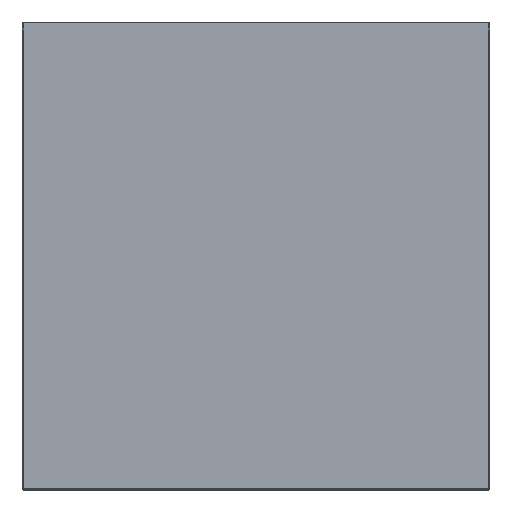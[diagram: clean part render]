
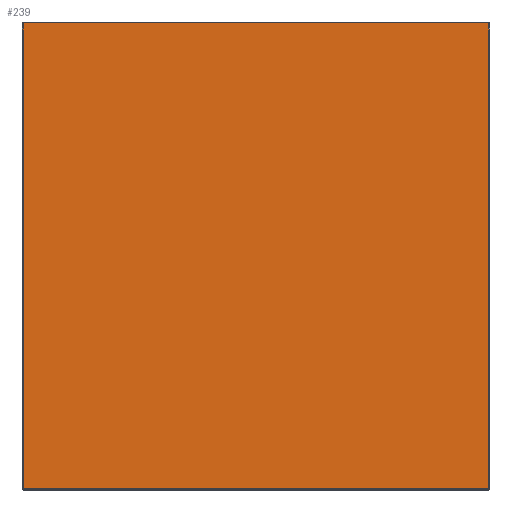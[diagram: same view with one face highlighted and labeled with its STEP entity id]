
A CAD part, top view. The second image highlights one B-rep face of the part: STEP entity #239.
In plain terms, the highlighted planar face has unit normal (0, 0, 1).
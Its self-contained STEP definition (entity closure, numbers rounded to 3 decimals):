
#40=B_SPLINE_CURVE_WITH_KNOTS('',1,(#3655,#3656),.UNSPECIFIED.,.F.,.F.,
(2,2),(1.5,708.5),.UNSPECIFIED.);
#41=B_SPLINE_CURVE_WITH_KNOTS('',1,(#3657,#3658),.UNSPECIFIED.,.F.,.F.,
(2,2),(1.5,708.5),.UNSPECIFIED.);
#42=B_SPLINE_CURVE_WITH_KNOTS('',1,(#3659,#3660),.UNSPECIFIED.,.F.,.F.,
(2,2),(1.5,708.5),.UNSPECIFIED.);
#43=B_SPLINE_CURVE_WITH_KNOTS('',1,(#3661,#3662),.UNSPECIFIED.,.F.,.F.,
(2,2),(1.5,708.5),.UNSPECIFIED.);
#239=ADVANCED_FACE('',(#423),#2381,.T.);
#423=FACE_OUTER_BOUND('',#607,.T.);
#607=EDGE_LOOP('',(#865,#866,#867,#868));
#865=ORIENTED_EDGE('',*,*,#1580,.F.);
#866=ORIENTED_EDGE('',*,*,#1578,.F.);
#867=ORIENTED_EDGE('',*,*,#1579,.F.);
#868=ORIENTED_EDGE('',*,*,#1577,.F.);
#1577=EDGE_CURVE('',#2193,#2194,#40,.T.);
#1578=EDGE_CURVE('',#2195,#2196,#41,.T.);
#1579=EDGE_CURVE('',#2194,#2195,#42,.T.);
#1580=EDGE_CURVE('',#2196,#2193,#43,.T.);
#2193=VERTEX_POINT('',#3615);
#2194=VERTEX_POINT('',#3616);
#2195=VERTEX_POINT('',#3617);
#2196=VERTEX_POINT('',#3618);
#2381=PLANE('',#2585);
#2585=AXIS2_PLACEMENT_3D('',#3405,#2634,$);
#2634=DIRECTION('',(0.,0.,1.));
#3405=CARTESIAN_POINT('',(355.,-355.,430.));
#3615=CARTESIAN_POINT('',(353.5,-353.5,430.));
#3616=CARTESIAN_POINT('',(-353.5,-353.5,430.));
#3617=CARTESIAN_POINT('',(-353.5,353.5,430.));
#3618=CARTESIAN_POINT('',(353.5,353.5,430.));
#3655=CARTESIAN_POINT('',(353.5,-353.5,430.));
#3656=CARTESIAN_POINT('',(-353.5,-353.5,430.));
#3657=CARTESIAN_POINT('',(-353.5,353.5,430.));
#3658=CARTESIAN_POINT('',(353.5,353.5,430.));
#3659=CARTESIAN_POINT('',(-353.5,-353.5,430.));
#3660=CARTESIAN_POINT('',(-353.5,353.5,430.));
#3661=CARTESIAN_POINT('',(353.5,353.5,430.));
#3662=CARTESIAN_POINT('',(353.5,-353.5,430.));
